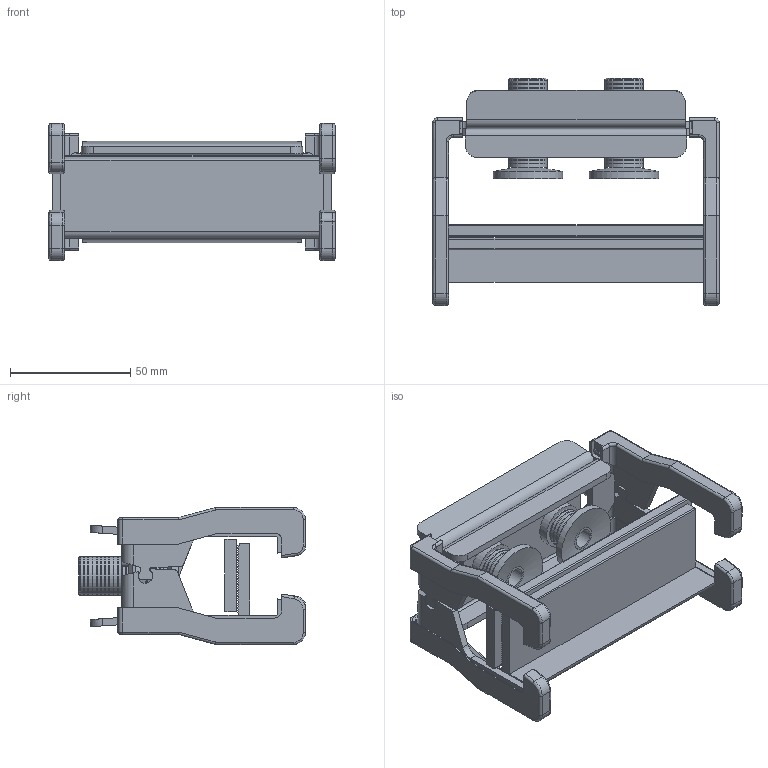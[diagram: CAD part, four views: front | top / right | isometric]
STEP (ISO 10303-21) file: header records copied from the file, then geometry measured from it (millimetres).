
FILE_DESCRIPTION (( 'STEP AP203' ), '1' );
FILE_NAME ('54071.STEP', '2021-08-14T01:20:43', ( '' ), ( '' ), 'SwSTEP 2.0', 'SolidWorks 2017', '' );
FILE_SCHEMA (( 'CONFIG_CONTROL_DESIGN' ));
Length unit declared in the file: millimetre
Products named in the file (2): 54071
Bounding box: 119 x 94.37 x 57 mm (x, y, z)
Volume: 124496.6 mm3; surface area: 84315.2 mm2
Topology: 11 solids, 11 shells, 1051 faces, 2818 edges, 1791 vertices
Faces by surface type: plane 497, cylinder 394, cone 112, bspline 44, torus 4
Full cylindrical faces by diameter (mm): 8 x4, 10 x6, 14.343 x40, 14.5 x2, 16 x44, 19 x2, 29 x2
Entity records: 33277 total; most frequent: CARTESIAN_POINT 8196, DIRECTION 5154, ORIENTED_EDGE 5056, EDGE_CURVE 2528, AXIS2_PLACEMENT_3D 1759, VERTEX_POINT 1697, LINE 1636, VECTOR 1636
